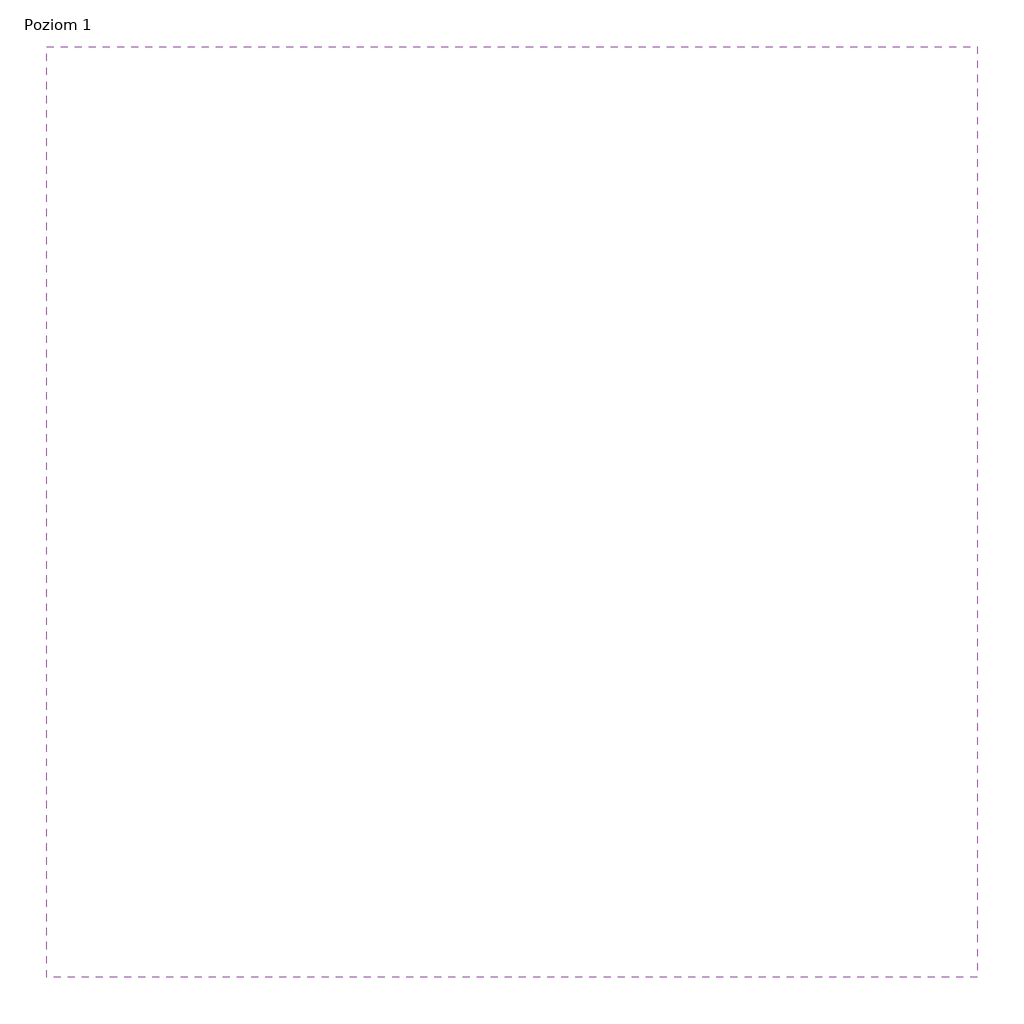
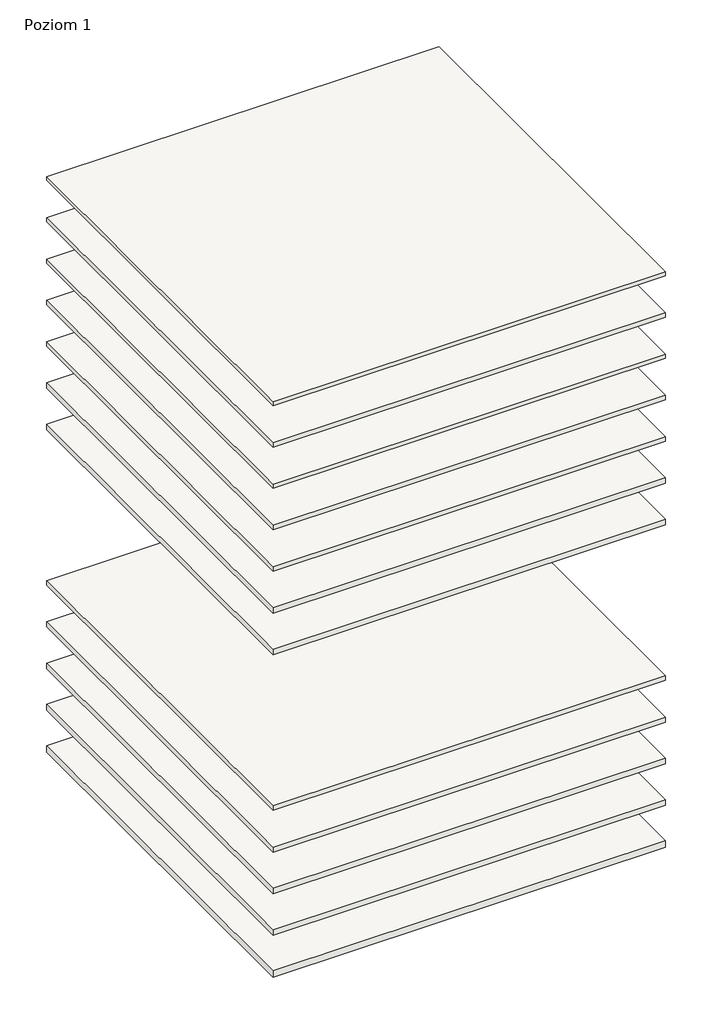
# One storey: 12 slabs.
"""IFC4 building model written with IfcOpenShell, lengths in millimetres."""

from ifc_helpers import new_model, si_unit, frame, origin, place, context, project, spatial, polyline, outline, extrude, element, save

model = new_model("IFC4")

# Units and contexts
model_context = context("Model", 3, world=origin())
ifc_project = project(units=[si_unit("LENGTHUNIT", "METRE", prefix="MILLI")], contexts=[model_context])

# Site, building, storey
site = spatial("IfcSite", under=ifc_project)
building = spatial("IfcBuilding", under=site)
storey = spatial("IfcBuildingStorey", under=building, Name="Poziom 1", Elevation=0.0)

# Slabs
placement = place(None, origin())
element("IfcSlab", 1, ObjectType="ISOVER.PODŁOGA.TDPT15", at=placement, inside=storey, context=model_context, shape_type="SweptSolid", body=[
    extrude(outline(polyline([(-8699.5825815, 12807.3436486), (-8699.5825815, 3807.3436486), (-17699.5825815, 3807.3436486), (-17699.5825815, 12807.3436486), (-8699.5825815, 12807.3436486)])), frame((0.0, 0.0, 164159.9468922), z_axis=(0.0, 0.0, 1.0), x_axis=(1.0, 0.0, 0.0)), (0.0, 0.0, 1.0), 95.0),
])
element("IfcSlab", 2, ObjectType="ISOVER.PODŁOGA.TDPT20", at=placement, inside=storey, context=model_context, shape_type="SweptSolid", body=[
    extrude(outline(polyline([(-8699.5825815, 12807.3436486), (-8699.5825815, 3807.3436486), (-17699.5825815, 3807.3436486), (-17699.5825815, 12807.3436486), (-8699.5825815, 12807.3436486)])), frame((0.0, 0.0, 163154.9468922), z_axis=(0.0, 0.0, 1.0), x_axis=(1.0, 0.0, 0.0)), (0.0, 0.0, 1.0), 100.0),
])
element("IfcSlab", 3, ObjectType="ISOVER.PODŁOGA.TDPT25", at=placement, inside=storey, context=model_context, shape_type="SweptSolid", body=[
    extrude(outline(polyline([(-8699.5825815, 12807.3436486), (-8699.5825815, 3807.3436486), (-17699.5825815, 3807.3436486), (-17699.5825815, 12807.3436486), (-8699.5825815, 12807.3436486)])), frame((0.0, 0.0, 162149.9468922), z_axis=(0.0, 0.0, 1.0), x_axis=(1.0, 0.0, 0.0)), (0.0, 0.0, 1.0), 105.0),
])
element("IfcSlab", 4, ObjectType="ISOVER.PODŁOGA.TDPT30", at=placement, inside=storey, context=model_context, shape_type="SweptSolid", body=[
    extrude(outline(polyline([(-8699.5825815, 12807.3436486), (-8699.5825815, 3807.3436486), (-17699.5825815, 3807.3436486), (-17699.5825815, 12807.3436486), (-8699.5825815, 12807.3436486)])), frame((0.0, 0.0, 161144.9468922), z_axis=(0.0, 0.0, 1.0), x_axis=(1.0, 0.0, 0.0)), (0.0, 0.0, 1.0), 110.0),
])
element("IfcSlab", 5, ObjectType="ISOVER.PODŁOGA.TDPT35", at=placement, inside=storey, context=model_context, shape_type="SweptSolid", body=[
    extrude(outline(polyline([(-8699.5825815, 12807.3436486), (-8699.5825815, 3807.3436486), (-17699.5825815, 3807.3436486), (-17699.5825815, 12807.3436486), (-8699.5825815, 12807.3436486)])), frame((0.0, 0.0, 160139.9468922), z_axis=(0.0, 0.0, 1.0), x_axis=(1.0, 0.0, 0.0)), (0.0, 0.0, 1.0), 115.0),
])
element("IfcSlab", 6, ObjectType="ISOVER.PODŁOGA.TDPT50", at=placement, inside=storey, context=model_context, shape_type="SweptSolid", body=[
    extrude(outline(polyline([(-8699.5825815, 12807.3436486), (-8699.5825815, 3807.3436486), (-17699.5825815, 3807.3436486), (-17699.5825815, 12807.3436486), (-8699.5825815, 12807.3436486)])), frame((0.0, 0.0, 159124.9468922), z_axis=(0.0, 0.0, 1.0), x_axis=(1.0, 0.0, 0.0)), (0.0, 0.0, 1.0), 130.0),
])
element("IfcSlab", 7, ObjectType="ISOVER.PODŁOGA.TDPT60", at=placement, inside=storey, context=model_context, shape_type="SweptSolid", body=[
    extrude(outline(polyline([(-8699.5825815, 12807.3436486), (-8699.5825815, 3807.3436486), (-17699.5825815, 3807.3436486), (-17699.5825815, 12807.3436486), (-8699.5825815, 12807.3436486)])), frame((0.0, 0.0, 158114.9468922), z_axis=(0.0, 0.0, 1.0), x_axis=(1.0, 0.0, 0.0)), (0.0, 0.0, 1.0), 140.0),
])
element("IfcSlab", 8, ObjectType="ISOVER.PODŁOGA.STROPOTERM30", at=placement, inside=storey, context=model_context, shape_type="SweptSolid", body=[
    extrude(outline(polyline([(-8699.5825815, 12807.3436486), (-8699.5825815, 3807.3436486), (-17699.5825815, 3807.3436486), (-17699.5825815, 12807.3436486), (-8699.5825815, 12807.3436486)])), frame((0.0, 0.0, 154344.9468922), z_axis=(0.0, 0.0, 1.0), x_axis=(1.0, 0.0, 0.0)), (0.0, 0.0, 1.0), 110.0),
])
element("IfcSlab", 9, ObjectType="ISOVER.PODŁOGA.STROPOTERM40", at=placement, inside=storey, context=model_context, shape_type="SweptSolid", body=[
    extrude(outline(polyline([(-8699.5825815, 12807.3436486), (-8699.5825815, 3807.3436486), (-17699.5825815, 3807.3436486), (-17699.5825815, 12807.3436486), (-8699.5825815, 12807.3436486)])), frame((0.0, 0.0, 153334.9468922), z_axis=(0.0, 0.0, 1.0), x_axis=(1.0, 0.0, 0.0)), (0.0, 0.0, 1.0), 120.0),
])
element("IfcSlab", 10, ObjectType="ISOVER.PODŁOGA.STROPOTERM50", at=placement, inside=storey, context=model_context, shape_type="SweptSolid", body=[
    extrude(outline(polyline([(-8699.5825815, 12807.3436486), (-8699.5825815, 3807.3436486), (-17699.5825815, 3807.3436486), (-17699.5825815, 12807.3436486), (-8699.5825815, 12807.3436486)])), frame((0.0, 0.0, 152324.9468922), z_axis=(0.0, 0.0, 1.0), x_axis=(1.0, 0.0, 0.0)), (0.0, 0.0, 1.0), 130.0),
])
element("IfcSlab", 11, ObjectType="ISOVER.PODŁOGA.STROPOTERM60", at=placement, inside=storey, context=model_context, shape_type="SweptSolid", body=[
    extrude(outline(polyline([(-8699.5825815, 12807.3436486), (-8699.5825815, 3807.3436486), (-17699.5825815, 3807.3436486), (-17699.5825815, 12807.3436486), (-8699.5825815, 12807.3436486)])), frame((0.0, 0.0, 151314.9468922), z_axis=(0.0, 0.0, 1.0), x_axis=(1.0, 0.0, 0.0)), (0.0, 0.0, 1.0), 140.0),
])
element("IfcSlab", 12, ObjectType="ISOVER.PODŁOGA.STROPOTERM80", at=placement, inside=storey, context=model_context, shape_type="SweptSolid", body=[
    extrude(outline(polyline([(-8699.5825815, 12807.3436486), (-8699.5825815, 3807.3436486), (-17699.5825815, 3807.3436486), (-17699.5825815, 12807.3436486), (-8699.5825815, 12807.3436486)])), frame((0.0, 0.0, 150294.9468922), z_axis=(0.0, 0.0, 1.0), x_axis=(1.0, 0.0, 0.0)), (0.0, 0.0, 1.0), 160.0),
])

save(model, "model.ifc")
